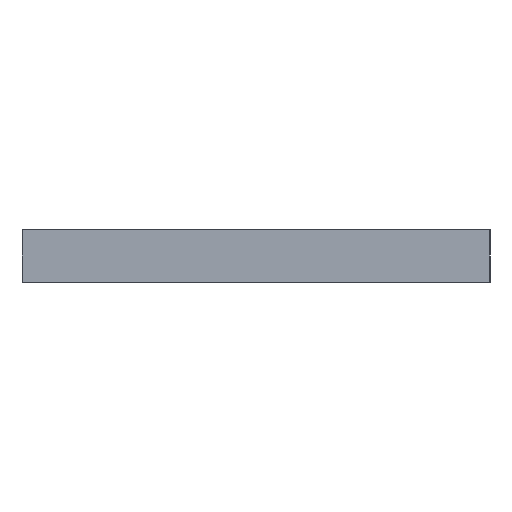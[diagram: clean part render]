
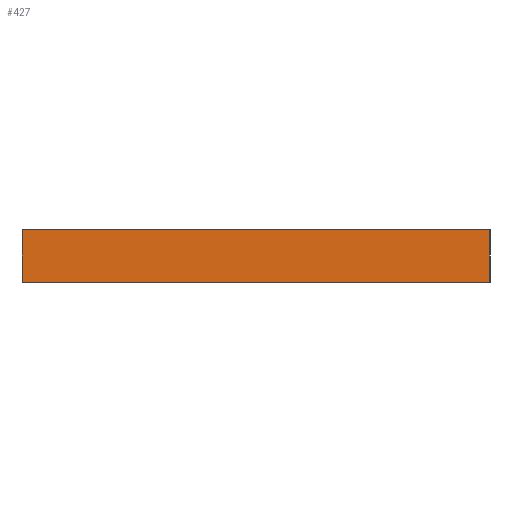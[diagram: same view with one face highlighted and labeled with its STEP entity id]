
A CAD part, left-side view. The second image highlights one B-rep face of the part: STEP entity #427.
In plain terms, the highlighted planar face has unit normal (-1, 0, 0).
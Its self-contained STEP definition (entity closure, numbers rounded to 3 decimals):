
#21 = EDGE_CURVE('',#22,#24,#26,.T.);
#22 = VERTEX_POINT('',#23);
#23 = CARTESIAN_POINT('',(-24.,19.05,25.));
#24 = VERTEX_POINT('',#25);
#25 = CARTESIAN_POINT('',(-24.,46.,25.));
#26 = SURFACE_CURVE('',#27,(#31,#42),.PCURVE_S1.);
#27 = LINE('',#28,#29);
#28 = CARTESIAN_POINT('',(-24.,-13.975,25.));
#29 = VECTOR('',#30,1.);
#30 = DIRECTION('',(0.,1.,0.));
#31 = PCURVE('',#32,#37);
#32 = PLANE('',#33);
#33 = AXIS2_PLACEMENT_3D('',#34,#35,#36);
#34 = CARTESIAN_POINT('',(-47.,-47.,25.));
#35 = DIRECTION('',(0.,0.,1.));
#36 = DIRECTION('',(1.,0.,-0.));
#37 = DEFINITIONAL_REPRESENTATION('',(#38),#41);
#38 = B_SPLINE_CURVE_WITH_KNOTS('',1,(#39,#40),.UNSPECIFIED.,.F.,.F.,(2,
    2),(33.025,59.975),.PIECEWISE_BEZIER_KNOTS.);
#39 = CARTESIAN_POINT('',(23.,66.05));
#40 = CARTESIAN_POINT('',(23.,93.));
#41 = ( GEOMETRIC_REPRESENTATION_CONTEXT(2) 
PARAMETRIC_REPRESENTATION_CONTEXT() REPRESENTATION_CONTEXT('2D SPACE',''
  ) );
#42 = PCURVE('',#43,#48);
#43 = PLANE('',#44);
#44 = AXIS2_PLACEMENT_3D('',#45,#46,#47);
#45 = CARTESIAN_POINT('',(-24.,19.05,0.));
#46 = DIRECTION('',(1.,0.,0.));
#47 = DIRECTION('',(0.,0.,1.));
#48 = DEFINITIONAL_REPRESENTATION('',(#49),#52);
#49 = B_SPLINE_CURVE_WITH_KNOTS('',1,(#50,#51),.UNSPECIFIED.,.F.,.F.,(2,
    2),(33.025,59.975),.PIECEWISE_BEZIER_KNOTS.);
#50 = CARTESIAN_POINT('',(25.,0.));
#51 = CARTESIAN_POINT('',(25.,-26.95));
#52 = ( GEOMETRIC_REPRESENTATION_CONTEXT(2) 
PARAMETRIC_REPRESENTATION_CONTEXT() REPRESENTATION_CONTEXT('2D SPACE',''
  ) );
#69 = PLANE('',#70);
#70 = AXIS2_PLACEMENT_3D('',#71,#72,#73);
#71 = CARTESIAN_POINT('',(-24.,19.05,0.));
#72 = DIRECTION('',(0.,1.,0.));
#73 = DIRECTION('',(0.,0.,1.));
#119 = PLANE('',#120);
#120 = AXIS2_PLACEMENT_3D('',#121,#122,#123);
#121 = CARTESIAN_POINT('',(-24.,46.,0.));
#122 = DIRECTION('',(0.,1.,0.));
#123 = DIRECTION('',(0.,0.,1.));
#427 = ADVANCED_FACE('',(#428),#43,.F.);
#428 = FACE_BOUND('',#429,.F.);
#429 = EDGE_LOOP('',(#430,#453,#479,#500));
#430 = ORIENTED_EDGE('',*,*,#431,.F.);
#431 = EDGE_CURVE('',#432,#22,#434,.T.);
#432 = VERTEX_POINT('',#433);
#433 = CARTESIAN_POINT('',(-24.,19.05,22.));
#434 = SURFACE_CURVE('',#435,(#439,#446),.PCURVE_S1.);
#435 = LINE('',#436,#437);
#436 = CARTESIAN_POINT('',(-24.,19.05,0.));
#437 = VECTOR('',#438,1.);
#438 = DIRECTION('',(0.,0.,1.));
#439 = PCURVE('',#43,#440);
#440 = DEFINITIONAL_REPRESENTATION('',(#441),#445);
#441 = LINE('',#442,#443);
#442 = CARTESIAN_POINT('',(0.,0.));
#443 = VECTOR('',#444,1.);
#444 = DIRECTION('',(1.,0.));
#445 = ( GEOMETRIC_REPRESENTATION_CONTEXT(2) 
PARAMETRIC_REPRESENTATION_CONTEXT() REPRESENTATION_CONTEXT('2D SPACE',''
  ) );
#446 = PCURVE('',#69,#447);
#447 = DEFINITIONAL_REPRESENTATION('',(#448),#452);
#448 = LINE('',#449,#450);
#449 = CARTESIAN_POINT('',(0.,0.));
#450 = VECTOR('',#451,1.);
#451 = DIRECTION('',(1.,0.));
#452 = ( GEOMETRIC_REPRESENTATION_CONTEXT(2) 
PARAMETRIC_REPRESENTATION_CONTEXT() REPRESENTATION_CONTEXT('2D SPACE',''
  ) );
#453 = ORIENTED_EDGE('',*,*,#454,.T.);
#454 = EDGE_CURVE('',#432,#455,#457,.T.);
#455 = VERTEX_POINT('',#456);
#456 = CARTESIAN_POINT('',(-24.,46.,22.));
#457 = SURFACE_CURVE('',#458,(#462,#468),.PCURVE_S1.);
#458 = LINE('',#459,#460);
#459 = CARTESIAN_POINT('',(-24.,-13.975,22.));
#460 = VECTOR('',#461,1.);
#461 = DIRECTION('',(0.,1.,0.));
#462 = PCURVE('',#43,#463);
#463 = DEFINITIONAL_REPRESENTATION('',(#464),#467);
#464 = B_SPLINE_CURVE_WITH_KNOTS('',1,(#465,#466),.UNSPECIFIED.,.F.,.F.,
  (2,2),(33.025,59.975),.PIECEWISE_BEZIER_KNOTS.);
#465 = CARTESIAN_POINT('',(22.,0.));
#466 = CARTESIAN_POINT('',(22.,-26.95));
#467 = ( GEOMETRIC_REPRESENTATION_CONTEXT(2) 
PARAMETRIC_REPRESENTATION_CONTEXT() REPRESENTATION_CONTEXT('2D SPACE',''
  ) );
#468 = PCURVE('',#469,#474);
#469 = PLANE('',#470);
#470 = AXIS2_PLACEMENT_3D('',#471,#472,#473);
#471 = CARTESIAN_POINT('',(-47.,-47.,22.));
#472 = DIRECTION('',(0.,0.,1.));
#473 = DIRECTION('',(1.,0.,-0.));
#474 = DEFINITIONAL_REPRESENTATION('',(#475),#478);
#475 = B_SPLINE_CURVE_WITH_KNOTS('',1,(#476,#477),.UNSPECIFIED.,.F.,.F.,
  (2,2),(33.025,59.975),.PIECEWISE_BEZIER_KNOTS.);
#476 = CARTESIAN_POINT('',(23.,66.05));
#477 = CARTESIAN_POINT('',(23.,93.));
#478 = ( GEOMETRIC_REPRESENTATION_CONTEXT(2) 
PARAMETRIC_REPRESENTATION_CONTEXT() REPRESENTATION_CONTEXT('2D SPACE',''
  ) );
#479 = ORIENTED_EDGE('',*,*,#480,.T.);
#480 = EDGE_CURVE('',#455,#24,#481,.T.);
#481 = SURFACE_CURVE('',#482,(#486,#493),.PCURVE_S1.);
#482 = LINE('',#483,#484);
#483 = CARTESIAN_POINT('',(-24.,46.,0.));
#484 = VECTOR('',#485,1.);
#485 = DIRECTION('',(0.,0.,1.));
#486 = PCURVE('',#43,#487);
#487 = DEFINITIONAL_REPRESENTATION('',(#488),#492);
#488 = LINE('',#489,#490);
#489 = CARTESIAN_POINT('',(0.,-26.95));
#490 = VECTOR('',#491,1.);
#491 = DIRECTION('',(1.,0.));
#492 = ( GEOMETRIC_REPRESENTATION_CONTEXT(2) 
PARAMETRIC_REPRESENTATION_CONTEXT() REPRESENTATION_CONTEXT('2D SPACE',''
  ) );
#493 = PCURVE('',#119,#494);
#494 = DEFINITIONAL_REPRESENTATION('',(#495),#499);
#495 = LINE('',#496,#497);
#496 = CARTESIAN_POINT('',(0.,0.));
#497 = VECTOR('',#498,1.);
#498 = DIRECTION('',(1.,0.));
#499 = ( GEOMETRIC_REPRESENTATION_CONTEXT(2) 
PARAMETRIC_REPRESENTATION_CONTEXT() REPRESENTATION_CONTEXT('2D SPACE',''
  ) );
#500 = ORIENTED_EDGE('',*,*,#21,.F.);
